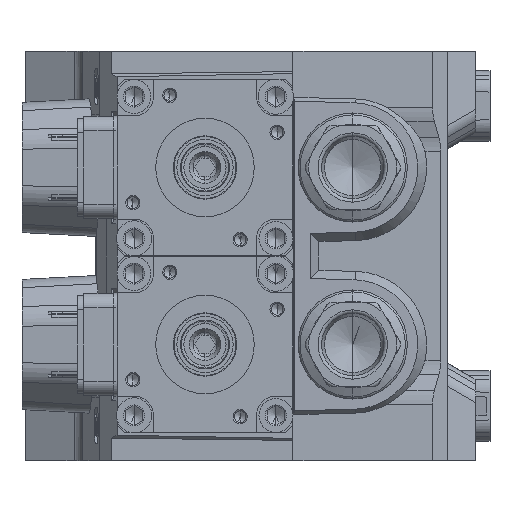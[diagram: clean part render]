
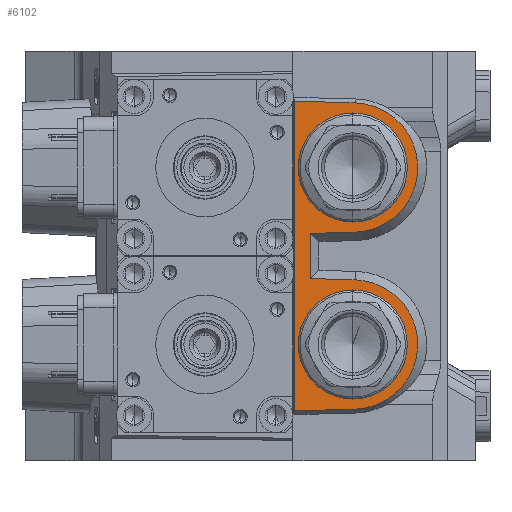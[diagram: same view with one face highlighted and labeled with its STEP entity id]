
A CAD part, left-side view. The second image highlights one B-rep face of the part: STEP entity #6102.
In plain terms, the highlighted planar face has unit normal (-1, -0.009, 0).
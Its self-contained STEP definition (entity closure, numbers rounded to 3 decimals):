
#6102 = ADVANCED_FACE ( 'NONE', ( #112179 ), #24096, .T. ) ;
#10054 = LINE ( 'NONE', #140587, #15865 ) ;
#11170 = ORIENTED_EDGE ( 'NONE', *, *, #58841, .T. ) ;
#12220 = DIRECTION ( 'NONE',  ( 0., 0., 1. ) ) ;
#13501 = CARTESIAN_POINT ( 'NONE',  ( -70.644, -17.641, 43.517 ) ) ;
#14086 = CARTESIAN_POINT ( 'NONE',  ( -70.8, 0.209, -6.25 ) ) ;
#15865 = VECTOR ( 'NONE', #78312, 1000. ) ;
#20163 = VERTEX_POINT ( 'NONE', #86679 ) ;
#20224 = AXIS2_PLACEMENT_3D ( 'NONE', #124038, #97928, #49249 ) ;
#20521 = VERTEX_POINT ( 'NONE', #13501 ) ;
#21498 = EDGE_CURVE ( 'NONE', #25989, #75329, #108815, .T. ) ;
#24096 = PLANE ( 'NONE',  #20224 ) ;
#24769 = VECTOR ( 'NONE', #43486, 1000. ) ;
#25989 = VERTEX_POINT ( 'NONE', #62220 ) ;
#28793 = ORIENTED_EDGE ( 'NONE', *, *, #21498, .T. ) ;
#30898 = ORIENTED_EDGE ( 'NONE', *, *, #129051, .T. ) ;
#35132 = DIRECTION ( 'NONE',  ( -0.009, 1., -0.03 ) ) ;
#37032 = EDGE_CURVE ( 'NONE', #20163, #20521, #10054, .T. ) ;
#41309 = ORIENTED_EDGE ( 'NONE', *, *, #49179, .F. ) ;
#43486 = DIRECTION ( 'NONE',  ( 0.009, -1., 0.03 ) ) ;
#49179 = EDGE_CURVE ( 'NONE', #20521, #116944, #67810, .T. ) ;
#49249 = DIRECTION ( 'NONE',  ( 0.009, -1., 0. ) ) ;
#52794 = ORIENTED_EDGE ( 'NONE', *, *, #37032, .F. ) ;
#58735 = VECTOR ( 'NONE', #35132, 1000. ) ;
#58841 = EDGE_CURVE ( 'NONE', #75329, #133254, #151850, .T. ) ;
#60523 = CARTESIAN_POINT ( 'NONE',  ( -70.342, -52.289, 42.482 ) ) ;
#62220 = CARTESIAN_POINT ( 'NONE',  ( -70.794, -0.5, -44.029 ) ) ;
#62863 = CARTESIAN_POINT ( 'NONE',  ( -70.755, -5., 0. ) ) ;
#67447 = VERTEX_POINT ( 'NONE', #154949 ) ;
#67810 =( BOUNDED_CURVE ( )  B_SPLINE_CURVE ( 3, ( #121775, #60523, #72589, #148529 ),
 .UNSPECIFIED., .F., .F. ) 
 B_SPLINE_CURVE_WITH_KNOTS ( ( 4, 4 ),
 ( 4.742, 7.824 ),
 .UNSPECIFIED. ) 
 CURVE ( )  GEOMETRIC_REPRESENTATION_ITEM ( )  RATIONAL_B_SPLINE_CURVE ( ( 1., 0.353, 0.353, 1. ) ) 
 REPRESENTATION_ITEM ( '' )  );
#72444 = CARTESIAN_POINT ( 'NONE',  ( -70.342, -52.289, -7.818 ) ) ;
#72589 = CARTESIAN_POINT ( 'NONE',  ( -70.342, -52.289, 7.818 ) ) ;
#75329 = VERTEX_POINT ( 'NONE', #80755 ) ;
#76282 = DIRECTION ( 'NONE',  ( -0.009, 1., 0.03 ) ) ;
#78055 = LINE ( 'NONE', #121092, #119160 ) ;
#78312 = DIRECTION ( 'NONE',  ( 0.009, -1., -0.03 ) ) ;
#80755 = CARTESIAN_POINT ( 'NONE',  ( -70.644, -17.641, -43.517 ) ) ;
#81125 = CARTESIAN_POINT ( 'NONE',  ( -70.785, -1.546, -43.998 ) ) ;
#81864 = ORIENTED_EDGE ( 'NONE', *, *, #95993, .T. ) ;
#86679 = CARTESIAN_POINT ( 'NONE',  ( -70.794, -0.5, 44.029 ) ) ;
#87756 = EDGE_CURVE ( 'NONE', #67447, #149951, #108428, .T. ) ;
#95993 = EDGE_CURVE ( 'NONE', #20163, #25989, #78055, .T. ) ;
#96892 = CARTESIAN_POINT ( 'NONE',  ( -70.8, 0.209, 6.25 ) ) ;
#97928 = DIRECTION ( 'NONE',  ( -1., -0.009, 0. ) ) ;
#107688 = LINE ( 'NONE', #14086, #136935 ) ;
#108428 = LINE ( 'NONE', #62863, #161238 ) ;
#108815 = LINE ( 'NONE', #81125, #24769 ) ;
#112179 = FACE_OUTER_BOUND ( 'NONE', #120248, .T. ) ;
#116944 = VERTEX_POINT ( 'NONE', #154416 ) ;
#118503 = CARTESIAN_POINT ( 'NONE',  ( -70.644, -17.641, -6.783 ) ) ;
#119160 = VECTOR ( 'NONE', #158773, 1000. ) ;
#120248 = EDGE_LOOP ( 'NONE', ( #52794, #81864, #28793, #11170, #30898, #161447, #155774, #41309 ) ) ;
#121092 = CARTESIAN_POINT ( 'NONE',  ( -70.794, -0.5, 0. ) ) ;
#121775 = CARTESIAN_POINT ( 'NONE',  ( -70.644, -17.641, 43.517 ) ) ;
#122696 = CARTESIAN_POINT ( 'NONE',  ( -70.644, -17.641, -43.517 ) ) ;
#124038 = CARTESIAN_POINT ( 'NONE',  ( -70.65, -17., 0. ) ) ;
#129051 = EDGE_CURVE ( 'NONE', #133254, #67447, #107688, .T. ) ;
#133254 = VERTEX_POINT ( 'NONE', #118503 ) ;
#134173 = CARTESIAN_POINT ( 'NONE',  ( -70.644, -17.641, -6.783 ) ) ;
#135806 = CARTESIAN_POINT ( 'NONE',  ( -70.342, -52.289, -42.482 ) ) ;
#136935 = VECTOR ( 'NONE', #76282, 1000. ) ;
#140587 = CARTESIAN_POINT ( 'NONE',  ( -70.785, -1.546, 43.998 ) ) ;
#148529 = CARTESIAN_POINT ( 'NONE',  ( -70.644, -17.641, 6.783 ) ) ;
#149951 = VERTEX_POINT ( 'NONE', #152299 ) ;
#151770 = EDGE_CURVE ( 'NONE', #116944, #149951, #152716, .T. ) ;
#151850 =( BOUNDED_CURVE ( )  B_SPLINE_CURVE ( 3, ( #122696, #135806, #72444, #134173 ),
 .UNSPECIFIED., .F., .F. ) 
 B_SPLINE_CURVE_WITH_KNOTS ( ( 4, 4 ),
 ( 4.742, 7.824 ),
 .UNSPECIFIED. ) 
 CURVE ( )  GEOMETRIC_REPRESENTATION_ITEM ( )  RATIONAL_B_SPLINE_CURVE ( ( 1., 0.353, 0.353, 1. ) ) 
 REPRESENTATION_ITEM ( '' )  );
#152299 = CARTESIAN_POINT ( 'NONE',  ( -70.755, -5., 6.406 ) ) ;
#152716 = LINE ( 'NONE', #96892, #58735 ) ;
#154416 = CARTESIAN_POINT ( 'NONE',  ( -70.644, -17.641, 6.783 ) ) ;
#154949 = CARTESIAN_POINT ( 'NONE',  ( -70.755, -5., -6.406 ) ) ;
#155774 = ORIENTED_EDGE ( 'NONE', *, *, #151770, .F. ) ;
#158773 = DIRECTION ( 'NONE',  ( 0., 0., -1. ) ) ;
#161238 = VECTOR ( 'NONE', #12220, 1000. ) ;
#161447 = ORIENTED_EDGE ( 'NONE', *, *, #87756, .T. ) ;
